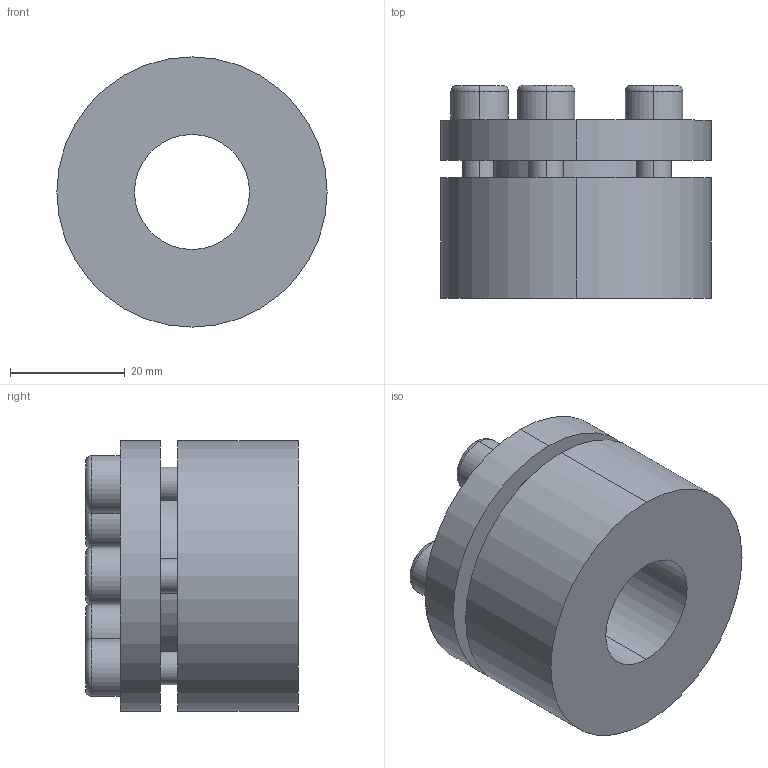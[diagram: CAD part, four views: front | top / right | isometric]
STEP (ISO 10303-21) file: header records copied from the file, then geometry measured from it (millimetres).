
FILE_DESCRIPTION (( 'STEP AP203' ), '1' );
FILE_NAME ('PL-H1 20-47.STEP', '2021-10-23T00:52:51', ( '' ), ( '' ), 'SwSTEP 2.0', 'SolidWorks 2018', '' );
FILE_SCHEMA (( 'CONFIG_CONTROL_DESIGN' ));
Length unit declared in the file: millimetre
Products named in the file (1): PL-H1 20-47
Bounding box: 47 x 37 x 47 mm (x, y, z)
Volume: 43216.2 mm3; surface area: 12382.3 mm2
Topology: 1 solids, 1 shells, 88 faces, 212 edges, 138 vertices
Faces by surface type: plane 44, cylinder 34, torus 10
Entity records: 2665 total; most frequent: DIRECTION 478, CARTESIAN_POINT 439, ORIENTED_EDGE 424, EDGE_CURVE 212, AXIS2_PLACEMENT_3D 177, VERTEX_POINT 138, VECTOR 124, LINE 124
